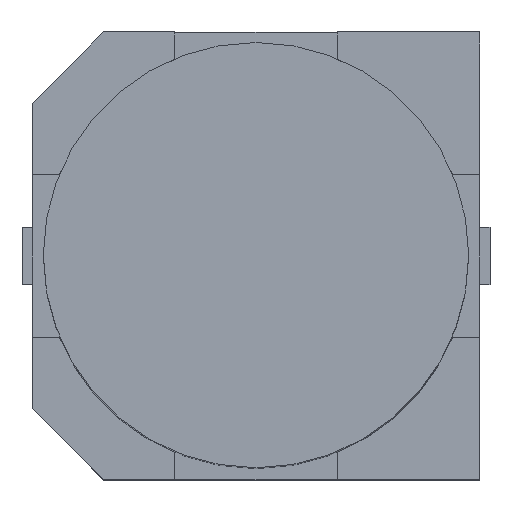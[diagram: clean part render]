
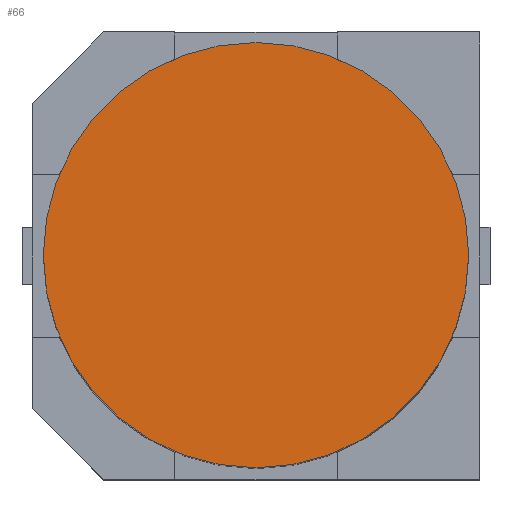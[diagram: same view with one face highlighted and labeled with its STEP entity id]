
A CAD part, top view. The second image highlights one B-rep face of the part: STEP entity #66.
In plain terms, the highlighted planar face has unit normal (0, 0, 1).
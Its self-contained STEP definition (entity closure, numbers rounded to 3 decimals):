
#66=ADVANCED_FACE($,(#72),#68,.T.);
#68=PLANE($,#93);
#72=FACE_OUTER_BOUND($,#76,.T.);
#76=EDGE_LOOP($,(#86));
#77=CIRCLE($,#90,4.039);
#79=VERTEX_POINT('',#108);
#81=EDGE_CURVE($,#79,#79,#77,.T.);
#86=ORIENTED_EDGE($,*,*,#81,.T.);
#90=AXIS2_PLACEMENT_3D($,#109,#98,#99);
#93=AXIS2_PLACEMENT_3D($,#113,#104,#105);
#98=DIRECTION('',(0.,0.,1.));
#99=DIRECTION('',(1.,0.,0.));
#104=DIRECTION('',(0.,0.,1.));
#105=DIRECTION('',(0.,1.,0.));
#108=CARTESIAN_POINT('',(-4.039,0.0,10.544));
#109=CARTESIAN_POINT('',(0.0,0.0,10.544));
#113=CARTESIAN_POINT('',(0.0,0.0,10.544));
